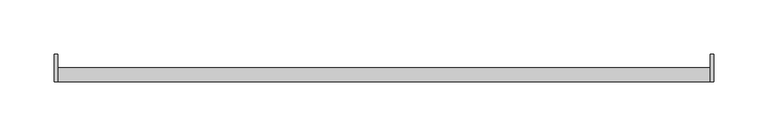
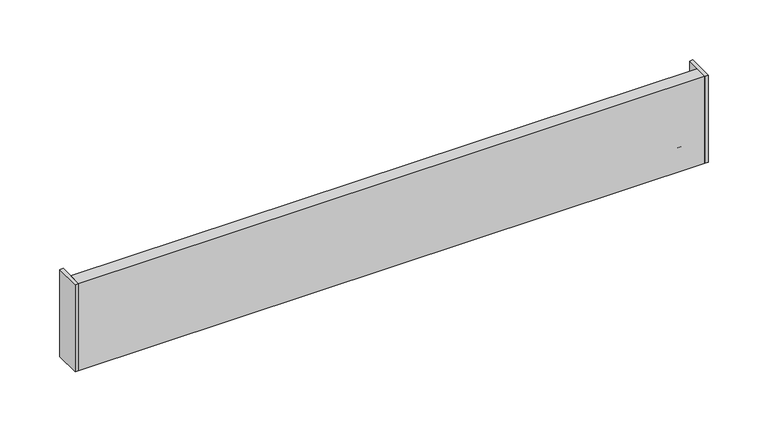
"""IFC4 building model written with IfcOpenShell, lengths in millimetres: furniture geometry."""

from ifc_helpers import new_model, si_unit, frame, origin, place, context, project, spatial, polyline, outline, extrude, source, transform, mapped, element, save


def furniture_cd3984e7(model_context):
    return source(origin(), model_context, "Body", "SweptSolid", [
        extrude(outline(polyline([(-301.625, 12.6999996), (-301.625, -12.7000004), (-304.8, -12.7000004), (-304.8, 12.6999996), (-301.625, 12.6999996)])), frame((0.0, 0.0, 723.9), z_axis=(0.0, 0.0, 1.0), x_axis=(1.0, 0.0, 0.0)), (0.0, 0.0, 1.0), 88.9),
        extrude(outline(polyline([(304.8, 12.6999996), (304.8, -12.7000004), (301.625, -12.7000004), (301.625, 12.6999996), (304.8, 12.6999996)])), frame((0.0, 0.0, 723.9), z_axis=(0.0, 0.0, 1.0), x_axis=(1.0, 0.0, 0.0)), (0.0, 0.0, 1.0), 88.9),
        extrude(outline(polyline([(301.625, 0.0), (301.625, -12.7000004), (-301.625, -12.7000004), (-301.625, 0.0), (301.625, 0.0)])), frame((0.0, 0.0, 723.9), z_axis=(0.0, 0.0, 1.0), x_axis=(1.0, 0.0, 0.0)), (0.0, 0.0, 1.0), 88.9),
        extrude(outline(polyline([(-12.7000004, 800.0999966), (-12.7000004, 812.8), (0.0, 812.8), (0.0, 723.9), (-12.7000004, 723.9), (-12.7000004, 749.2999966), (-3.1750002, 749.2999966), (-3.1750002, 761.9999966), (-12.7000004, 761.9999966), (-12.7000004, 787.3999966), (-3.1750002, 787.3999966), (-3.1750002, 800.0999966), (-12.7000004, 800.0999966)])), frame((-301.625, 0.0, 0.0), z_axis=(1.0, 0.0, 0.0), x_axis=(0.0, 1.0, 0.0)), (0.0, 0.0, 1.0), 603.25),
        extrude(outline(polyline([(-12.7000004, 812.8), (0.0, 812.8), (0.0, 800.0999966), (12.6999996, 800.0999966), (12.6999996, 736.599997), (0.0, 736.599997), (0.0, 723.9), (-12.7000004, 723.9), (-12.7000004, 812.8)])), frame((-304.8, 0.0, 0.0), z_axis=(1.0, 0.0, 0.0), x_axis=(0.0, 1.0, 0.0)), (0.0, 0.0, 1.0), 3.175),
        extrude(outline(polyline([(-12.7000004, 812.8), (0.0, 812.8), (0.0, 800.0999966), (12.6999996, 800.0999966), (12.6999996, 736.599997), (0.0, 736.599997), (0.0, 723.9), (-12.7000004, 723.9), (-12.7000004, 812.8)])), frame((301.625, 0.0, 0.0), z_axis=(1.0, 0.0, 0.0), x_axis=(0.0, 1.0, 0.0)), (0.0, 0.0, 1.0), 3.175),
    ])


if __name__ == "__main__":
    model = new_model("IFC4")
    model_context = context("Model", 3, world=origin())
    ifc_project = project(units=[si_unit("LENGTHUNIT", "METRE", prefix="MILLI")], contexts=[model_context])
    site = spatial("IfcSite", under=ifc_project)
    building = spatial("IfcBuilding", under=site)
    placement = place(None, origin())
    furniture_shape = furniture_cd3984e7(model_context)
    element("IfcFurniture", 1, ObjectType="HermanMiller_ActionOffice_A3610_ToolBar : 4\"H x 24\"W", at=placement, inside=building, context=model_context, shape_type="MappedRepresentation", body=[
        mapped(furniture_shape, transform((0.0, 0.0, 0.0), x_axis=(1.0, 0.0, 0.0), y_axis=(0.0, 1.0, 0.0), z_axis=(0.0, 0.0, 1.0))),
    ])
    save(model, "model.ifc")
